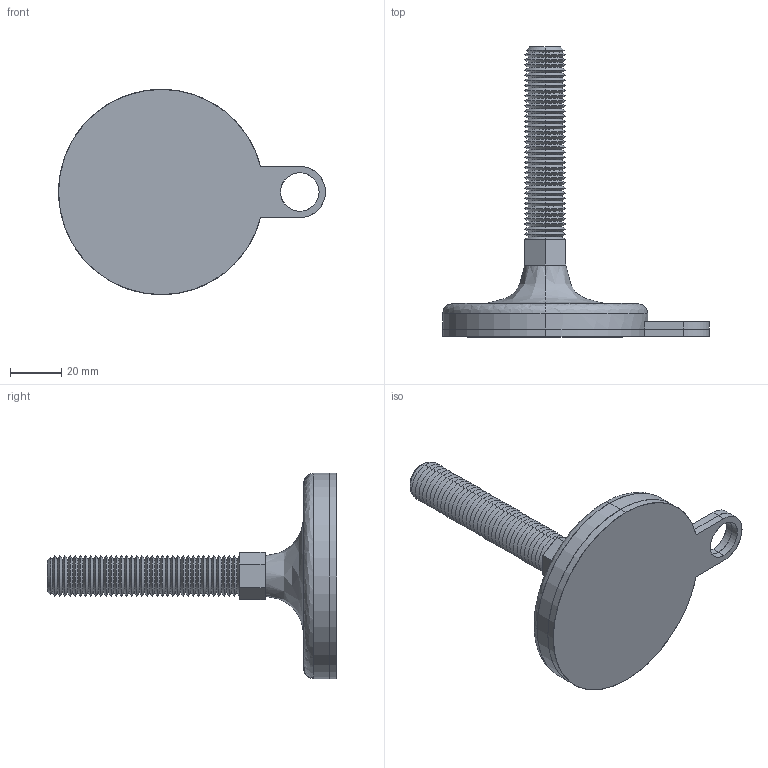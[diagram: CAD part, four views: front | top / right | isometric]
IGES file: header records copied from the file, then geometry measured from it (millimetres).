
Start section: SolidWorks IGES file using analytic representation for surfaces
Global section: file name: C:\Users\liam_\OneDrive\Documents\WORK\Work for WixRoyd\Job Files\J-00026 - Matt Davis CAD - 20191124\04. CAD Drawings\Wixroyd20191124\34704_v2\34704_v2_20191128_IGES\34704.W1600.igs; native system: SolidWorks 2017; preprocessor: SolidWorks 2017; author: liam_; date: 191128.202439; units: millimetre
Bounding box: 104 x 113 x 80 mm (x, y, z)
Surface area: 32260.9 mm2 (no closed solid volume)
Topology: 0 solids, 0 shells, 193 faces, 1404 edges, 1404 vertices
Faces by surface type: revolution 161, bspline 32
